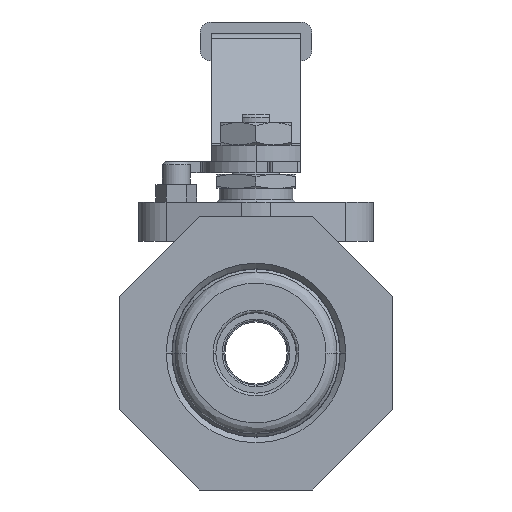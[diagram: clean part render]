
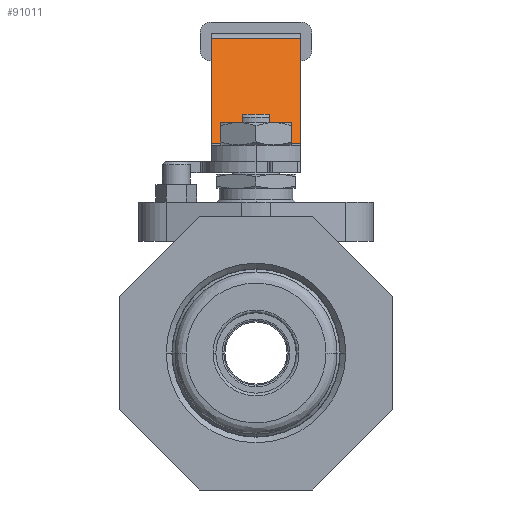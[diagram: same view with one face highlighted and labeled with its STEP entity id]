
A CAD part, left-side view. The second image highlights one B-rep face of the part: STEP entity #91011.
In plain terms, the highlighted planar face has unit normal (-0.707, 0, 0.707).
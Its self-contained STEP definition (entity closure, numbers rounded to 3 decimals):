
#90281 = PLANE('',#90282);
#90282 = AXIS2_PLACEMENT_3D('',#90283,#90284,#90285);
#90283 = CARTESIAN_POINT('',(-11.967,11.689,34.2));
#90284 = DIRECTION('',(0.,-1.,0.));
#90285 = DIRECTION('',(1.,0.,0.));
#90416 = EDGE_CURVE('',#90417,#90419,#90421,.T.);
#90417 = VERTEX_POINT('',#90418);
#90418 = CARTESIAN_POINT('',(9.826,-4.311,
    37.493));
#90419 = VERTEX_POINT('',#90420);
#90420 = CARTESIAN_POINT('',(9.826,11.689,
    37.493));
#90421 = SURFACE_CURVE('',#90422,(#90426,#90438),.PCURVE_S1.);
#90422 = LINE('',#90423,#90424);
#90423 = CARTESIAN_POINT('',(9.826,-4.311,
    37.493));
#90424 = VECTOR('',#90425,1.);
#90425 = DIRECTION('',(0.,1.,0.));
#90426 = PCURVE('',#90427,#90432);
#90427 = CYLINDRICAL_SURFACE('',#90428,1.);
#90428 = AXIS2_PLACEMENT_3D('',#90429,#90430,#90431);
#90429 = CARTESIAN_POINT('',(9.119,-4.311,38.2));
#90430 = DIRECTION('',(0.,-1.,0.));
#90431 = DIRECTION('',(1.,0.,0.));
#90432 = DEFINITIONAL_REPRESENTATION('',(#90433),#90437);
#90433 = LINE('',#90434,#90435);
#90434 = CARTESIAN_POINT('',(5.498,0.));
#90435 = VECTOR('',#90436,1.);
#90436 = DIRECTION('',(0.,-1.));
#90437 = ( GEOMETRIC_REPRESENTATION_CONTEXT(2) 
PARAMETRIC_REPRESENTATION_CONTEXT() REPRESENTATION_CONTEXT('2D SPACE',''
  ) );
#90438 = PCURVE('',#90439,#90444);
#90439 = PLANE('',#90440);
#90440 = AXIS2_PLACEMENT_3D('',#90441,#90442,#90443);
#90441 = CARTESIAN_POINT('',(9.533,-4.311,37.2));
#90442 = DIRECTION('',(0.707,0.,
    -0.707));
#90443 = DIRECTION('',(0.707,0.,0.707)
  );
#90444 = DEFINITIONAL_REPRESENTATION('',(#90445),#90449);
#90445 = LINE('',#90446,#90447);
#90446 = CARTESIAN_POINT('',(0.414,0.));
#90447 = VECTOR('',#90448,1.);
#90448 = DIRECTION('',(0.,-1.));
#90449 = ( GEOMETRIC_REPRESENTATION_CONTEXT(2) 
PARAMETRIC_REPRESENTATION_CONTEXT() REPRESENTATION_CONTEXT('2D SPACE',''
  ) );
#90513 = PLANE('',#90514);
#90514 = AXIS2_PLACEMENT_3D('',#90515,#90516,#90517);
#90515 = CARTESIAN_POINT('',(-11.967,-4.311,34.2));
#90516 = DIRECTION('',(0.,-1.,0.));
#90517 = DIRECTION('',(1.,0.,0.));
#91011 = ADVANCED_FACE('',(#91012),#90439,.F.);
#91012 = FACE_BOUND('',#91013,.T.);
#91013 = EDGE_LOOP('',(#91014,#91015,#91038,#91066));
#91014 = ORIENTED_EDGE('',*,*,#90416,.F.);
#91015 = ORIENTED_EDGE('',*,*,#91016,.F.);
#91016 = EDGE_CURVE('',#91017,#90417,#91019,.T.);
#91017 = VERTEX_POINT('',#91018);
#91018 = CARTESIAN_POINT('',(28.654,-4.311,
    56.321));
#91019 = SURFACE_CURVE('',#91020,(#91024,#91031),.PCURVE_S1.);
#91020 = LINE('',#91021,#91022);
#91021 = CARTESIAN_POINT('',(28.654,-4.311,
    56.321));
#91022 = VECTOR('',#91023,1.);
#91023 = DIRECTION('',(-0.707,0.,-0.707));
#91024 = PCURVE('',#90439,#91025);
#91025 = DEFINITIONAL_REPRESENTATION('',(#91026),#91030);
#91026 = LINE('',#91027,#91028);
#91027 = CARTESIAN_POINT('',(27.042,0.));
#91028 = VECTOR('',#91029,1.);
#91029 = DIRECTION('',(-1.,0.));
#91030 = ( GEOMETRIC_REPRESENTATION_CONTEXT(2) 
PARAMETRIC_REPRESENTATION_CONTEXT() REPRESENTATION_CONTEXT('2D SPACE',''
  ) );
#91031 = PCURVE('',#90513,#91032);
#91032 = DEFINITIONAL_REPRESENTATION('',(#91033),#91037);
#91033 = LINE('',#91034,#91035);
#91034 = CARTESIAN_POINT('',(40.621,22.121));
#91035 = VECTOR('',#91036,1.);
#91036 = DIRECTION('',(-0.707,-0.707));
#91037 = ( GEOMETRIC_REPRESENTATION_CONTEXT(2) 
PARAMETRIC_REPRESENTATION_CONTEXT() REPRESENTATION_CONTEXT('2D SPACE',''
  ) );
#91038 = ORIENTED_EDGE('',*,*,#91039,.F.);
#91039 = EDGE_CURVE('',#91040,#91017,#91042,.T.);
#91040 = VERTEX_POINT('',#91041);
#91041 = CARTESIAN_POINT('',(28.654,11.689,
    56.321));
#91042 = SURFACE_CURVE('',#91043,(#91047,#91054),.PCURVE_S1.);
#91043 = LINE('',#91044,#91045);
#91044 = CARTESIAN_POINT('',(28.654,-4.311,
    56.321));
#91045 = VECTOR('',#91046,1.);
#91046 = DIRECTION('',(0.,-1.,0.));
#91047 = PCURVE('',#90439,#91048);
#91048 = DEFINITIONAL_REPRESENTATION('',(#91049),#91053);
#91049 = LINE('',#91050,#91051);
#91050 = CARTESIAN_POINT('',(27.042,0.));
#91051 = VECTOR('',#91052,1.);
#91052 = DIRECTION('',(0.,1.));
#91053 = ( GEOMETRIC_REPRESENTATION_CONTEXT(2) 
PARAMETRIC_REPRESENTATION_CONTEXT() REPRESENTATION_CONTEXT('2D SPACE',''
  ) );
#91054 = PCURVE('',#91055,#91060);
#91055 = CYLINDRICAL_SURFACE('',#91056,3.);
#91056 = AXIS2_PLACEMENT_3D('',#91057,#91058,#91059);
#91057 = CARTESIAN_POINT('',(30.776,-4.311,54.2));
#91058 = DIRECTION('',(0.,1.,0.));
#91059 = DIRECTION('',(-1.,0.,0.));
#91060 = DEFINITIONAL_REPRESENTATION('',(#91061),#91065);
#91061 = LINE('',#91062,#91063);
#91062 = CARTESIAN_POINT('',(0.785,0.));
#91063 = VECTOR('',#91064,1.);
#91064 = DIRECTION('',(0.,-1.));
#91065 = ( GEOMETRIC_REPRESENTATION_CONTEXT(2) 
PARAMETRIC_REPRESENTATION_CONTEXT() REPRESENTATION_CONTEXT('2D SPACE',''
  ) );
#91066 = ORIENTED_EDGE('',*,*,#91067,.T.);
#91067 = EDGE_CURVE('',#91040,#90419,#91068,.T.);
#91068 = SURFACE_CURVE('',#91069,(#91073,#91080),.PCURVE_S1.);
#91069 = LINE('',#91070,#91071);
#91070 = CARTESIAN_POINT('',(28.654,11.689,
    56.321));
#91071 = VECTOR('',#91072,1.);
#91072 = DIRECTION('',(-0.707,0.,-0.707));
#91073 = PCURVE('',#90439,#91074);
#91074 = DEFINITIONAL_REPRESENTATION('',(#91075),#91079);
#91075 = LINE('',#91076,#91077);
#91076 = CARTESIAN_POINT('',(27.042,-16.));
#91077 = VECTOR('',#91078,1.);
#91078 = DIRECTION('',(-1.,0.));
#91079 = ( GEOMETRIC_REPRESENTATION_CONTEXT(2) 
PARAMETRIC_REPRESENTATION_CONTEXT() REPRESENTATION_CONTEXT('2D SPACE',''
  ) );
#91080 = PCURVE('',#90281,#91081);
#91081 = DEFINITIONAL_REPRESENTATION('',(#91082),#91086);
#91082 = LINE('',#91083,#91084);
#91083 = CARTESIAN_POINT('',(40.621,22.121));
#91084 = VECTOR('',#91085,1.);
#91085 = DIRECTION('',(-0.707,-0.707));
#91086 = ( GEOMETRIC_REPRESENTATION_CONTEXT(2) 
PARAMETRIC_REPRESENTATION_CONTEXT() REPRESENTATION_CONTEXT('2D SPACE',''
  ) );
